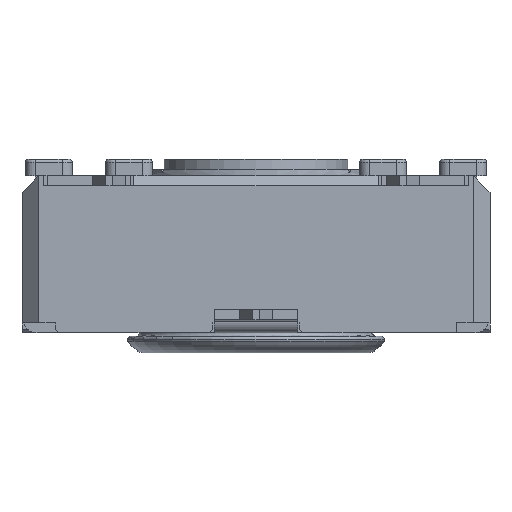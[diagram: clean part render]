
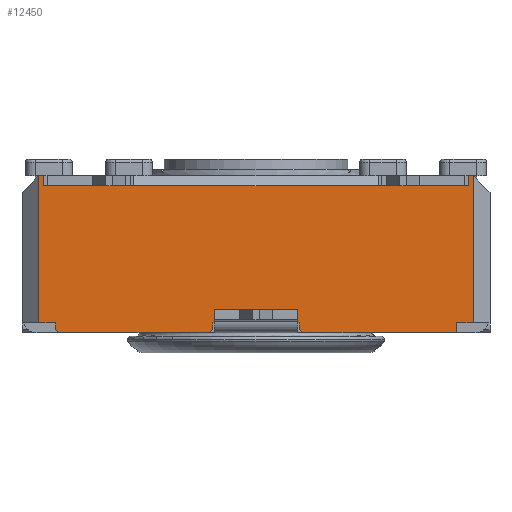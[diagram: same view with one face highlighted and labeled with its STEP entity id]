
A CAD part, front view. The second image highlights one B-rep face of the part: STEP entity #12450.
In plain terms, the highlighted planar face has unit normal (0, -1, 0).
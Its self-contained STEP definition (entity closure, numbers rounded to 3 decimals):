
#191=PLANE('',#13158);
#689=FACE_OUTER_BOUND('',#1353,.T.);
#1353=EDGE_LOOP('',(#8626,#8627,#8628,#8629,#8630,#8631,#8632,#8633,#8634,
#8635,#8636,#8637,#8638,#8639,#8640,#8641,#8642,#8643,#8644,#8645,#8646,
#8647,#8648,#8649,#8650,#8651,#8652));
#2026=LINE('',#17699,#3499);
#2035=LINE('',#17725,#3508);
#2040=LINE('',#17735,#3513);
#2120=LINE('',#17900,#3593);
#2145=LINE('',#17951,#3618);
#2171=LINE('',#18015,#3644);
#2172=LINE('',#18017,#3645);
#2173=LINE('',#18019,#3646);
#2174=LINE('',#18020,#3647);
#2175=LINE('',#18022,#3648);
#2176=LINE('',#18024,#3649);
#2177=LINE('',#18026,#3650);
#2178=LINE('',#18028,#3651);
#2179=LINE('',#18029,#3652);
#2180=LINE('',#18031,#3653);
#2181=LINE('',#18033,#3654);
#2182=LINE('',#18035,#3655);
#2183=LINE('',#18037,#3656);
#2184=LINE('',#18039,#3657);
#2185=LINE('',#18041,#3658);
#2186=LINE('',#18043,#3659);
#2187=LINE('',#18045,#3660);
#2188=LINE('',#18047,#3661);
#2189=LINE('',#18048,#3662);
#2190=LINE('',#18050,#3663);
#2191=LINE('',#18052,#3664);
#2192=LINE('',#18053,#3665);
#3499=VECTOR('',#14196,10.);
#3508=VECTOR('',#14227,10.);
#3513=VECTOR('',#14232,10.);
#3593=VECTOR('',#14340,10.);
#3618=VECTOR('',#14381,10.);
#3644=VECTOR('',#14429,10.);
#3645=VECTOR('',#14430,10.);
#3646=VECTOR('',#14431,10.);
#3647=VECTOR('',#14432,10.);
#3648=VECTOR('',#14433,10.);
#3649=VECTOR('',#14434,10.);
#3650=VECTOR('',#14435,10.);
#3651=VECTOR('',#14436,10.);
#3652=VECTOR('',#14437,10.);
#3653=VECTOR('',#14438,10.);
#3654=VECTOR('',#14439,10.);
#3655=VECTOR('',#14440,10.);
#3656=VECTOR('',#14441,10.);
#3657=VECTOR('',#14442,10.);
#3658=VECTOR('',#14443,10.);
#3659=VECTOR('',#14444,10.);
#3660=VECTOR('',#14445,10.);
#3661=VECTOR('',#14446,10.);
#3662=VECTOR('',#14447,10.);
#3663=VECTOR('',#14448,10.);
#3664=VECTOR('',#14449,10.);
#3665=VECTOR('',#14450,10.);
#5279=VERTEX_POINT('',#17679);
#5286=VERTEX_POINT('',#17698);
#5292=VERTEX_POINT('',#17724);
#5296=VERTEX_POINT('',#17732);
#5297=VERTEX_POINT('',#17734);
#5350=VERTEX_POINT('',#17848);
#5368=VERTEX_POINT('',#17899);
#5385=VERTEX_POINT('',#17948);
#5386=VERTEX_POINT('',#17950);
#5413=VERTEX_POINT('',#18014);
#5414=VERTEX_POINT('',#18016);
#5415=VERTEX_POINT('',#18018);
#5416=VERTEX_POINT('',#18021);
#5417=VERTEX_POINT('',#18023);
#5418=VERTEX_POINT('',#18025);
#5419=VERTEX_POINT('',#18027);
#5420=VERTEX_POINT('',#18030);
#5421=VERTEX_POINT('',#18032);
#5422=VERTEX_POINT('',#18034);
#5423=VERTEX_POINT('',#18036);
#5424=VERTEX_POINT('',#18038);
#5425=VERTEX_POINT('',#18040);
#5426=VERTEX_POINT('',#18042);
#5427=VERTEX_POINT('',#18044);
#5428=VERTEX_POINT('',#18046);
#5429=VERTEX_POINT('',#18049);
#5430=VERTEX_POINT('',#18051);
#6504=EDGE_CURVE('',#5279,#5286,#2026,.T.);
#6517=EDGE_CURVE('',#5292,#5279,#2035,.T.);
#6522=EDGE_CURVE('',#5297,#5296,#2040,.T.);
#6604=EDGE_CURVE('',#5368,#5350,#2120,.T.);
#6629=EDGE_CURVE('',#5386,#5385,#2145,.T.);
#6661=EDGE_CURVE('',#5350,#5413,#2171,.T.);
#6662=EDGE_CURVE('',#5413,#5414,#2172,.T.);
#6663=EDGE_CURVE('',#5414,#5415,#2173,.T.);
#6664=EDGE_CURVE('',#5297,#5415,#2174,.T.);
#6665=EDGE_CURVE('',#5296,#5416,#2175,.T.);
#6666=EDGE_CURVE('',#5417,#5416,#2176,.T.);
#6667=EDGE_CURVE('',#5417,#5418,#2177,.T.);
#6668=EDGE_CURVE('',#5419,#5418,#2178,.T.);
#6669=EDGE_CURVE('',#5292,#5419,#2179,.T.);
#6670=EDGE_CURVE('',#5286,#5420,#2180,.T.);
#6671=EDGE_CURVE('',#5420,#5421,#2181,.T.);
#6672=EDGE_CURVE('',#5422,#5421,#2182,.T.);
#6673=EDGE_CURVE('',#5422,#5423,#2183,.T.);
#6674=EDGE_CURVE('',#5423,#5424,#2184,.T.);
#6675=EDGE_CURVE('',#5424,#5425,#2185,.T.);
#6676=EDGE_CURVE('',#5426,#5425,#2186,.T.);
#6677=EDGE_CURVE('',#5426,#5427,#2187,.T.);
#6678=EDGE_CURVE('',#5427,#5428,#2188,.T.);
#6679=EDGE_CURVE('',#5428,#5386,#2189,.T.);
#6680=EDGE_CURVE('',#5385,#5429,#2190,.T.);
#6681=EDGE_CURVE('',#5430,#5429,#2191,.T.);
#6682=EDGE_CURVE('',#5430,#5368,#2192,.T.);
#8626=ORIENTED_EDGE('',*,*,#6604,.T.);
#8627=ORIENTED_EDGE('',*,*,#6661,.T.);
#8628=ORIENTED_EDGE('',*,*,#6662,.T.);
#8629=ORIENTED_EDGE('',*,*,#6663,.T.);
#8630=ORIENTED_EDGE('',*,*,#6664,.F.);
#8631=ORIENTED_EDGE('',*,*,#6522,.T.);
#8632=ORIENTED_EDGE('',*,*,#6665,.T.);
#8633=ORIENTED_EDGE('',*,*,#6666,.F.);
#8634=ORIENTED_EDGE('',*,*,#6667,.T.);
#8635=ORIENTED_EDGE('',*,*,#6668,.F.);
#8636=ORIENTED_EDGE('',*,*,#6669,.F.);
#8637=ORIENTED_EDGE('',*,*,#6517,.T.);
#8638=ORIENTED_EDGE('',*,*,#6504,.T.);
#8639=ORIENTED_EDGE('',*,*,#6670,.T.);
#8640=ORIENTED_EDGE('',*,*,#6671,.T.);
#8641=ORIENTED_EDGE('',*,*,#6672,.F.);
#8642=ORIENTED_EDGE('',*,*,#6673,.T.);
#8643=ORIENTED_EDGE('',*,*,#6674,.T.);
#8644=ORIENTED_EDGE('',*,*,#6675,.T.);
#8645=ORIENTED_EDGE('',*,*,#6676,.F.);
#8646=ORIENTED_EDGE('',*,*,#6677,.T.);
#8647=ORIENTED_EDGE('',*,*,#6678,.T.);
#8648=ORIENTED_EDGE('',*,*,#6679,.T.);
#8649=ORIENTED_EDGE('',*,*,#6629,.T.);
#8650=ORIENTED_EDGE('',*,*,#6680,.T.);
#8651=ORIENTED_EDGE('',*,*,#6681,.F.);
#8652=ORIENTED_EDGE('',*,*,#6682,.T.);
#12450=ADVANCED_FACE('',(#689),#191,.T.);
#13158=AXIS2_PLACEMENT_3D('',#18013,#14427,#14428);
#14196=DIRECTION('',(1.,0.,0.));
#14227=DIRECTION('',(1.,0.,0.));
#14232=DIRECTION('',(1.,0.,0.));
#14340=DIRECTION('',(-1.,0.,0.));
#14381=DIRECTION('',(-1.,0.,0.));
#14427=DIRECTION('center_axis',(0.,-1.,0.));
#14428=DIRECTION('ref_axis',(0.,0.,-1.));
#14429=DIRECTION('',(-1.,0.,0.));
#14430=DIRECTION('',(0.,0.,1.));
#14431=DIRECTION('',(-1.,0.,0.));
#14432=DIRECTION('',(0.,0.,1.));
#14433=DIRECTION('',(0.,0.,-1.));
#14434=DIRECTION('',(-0.707,0.,0.707));
#14435=DIRECTION('',(1.,0.,0.));
#14436=DIRECTION('',(-0.707,0.,-0.707));
#14437=DIRECTION('',(0.,0.,-1.));
#14438=DIRECTION('',(1.,0.,0.));
#14439=DIRECTION('',(0.,0.,-1.));
#14440=DIRECTION('',(-0.707,0.,0.707));
#14441=DIRECTION('',(1.,0.,0.));
#14442=DIRECTION('',(0.,0.,1.));
#14443=DIRECTION('',(1.,0.,0.));
#14444=DIRECTION('',(0.,0.,-1.));
#14445=DIRECTION('',(-1.,0.,0.));
#14446=DIRECTION('',(0.,0.,-1.));
#14447=DIRECTION('',(-1.,0.,0.));
#14448=DIRECTION('',(-1.,0.,0.));
#14449=DIRECTION('',(1.,0.,0.));
#14450=DIRECTION('',(-1.,0.,0.));
#17679=CARTESIAN_POINT('',(-8.717,-9.898,0.));
#17698=CARTESIAN_POINT('',(-6.217,-9.898,0.));
#17699=CARTESIAN_POINT('',(-14.467,-9.898,0.));
#17724=CARTESIAN_POINT('',(-8.767,-9.898,0.));
#17725=CARTESIAN_POINT('',(-14.467,-9.898,0.));
#17732=CARTESIAN_POINT('',(-13.467,-9.898,0.));
#17734=CARTESIAN_POINT('',(-13.967,-9.898,0.));
#17735=CARTESIAN_POINT('',(-7.245,-9.898,0.));
#17848=CARTESIAN_POINT('',(-13.717,-9.898,4.1));
#17899=CARTESIAN_POINT('',(-11.217,-9.898,4.1));
#17900=CARTESIAN_POINT('',(-6.341,-9.898,4.1));
#17948=CARTESIAN_POINT('',(-3.717,-9.898,4.1));
#17950=CARTESIAN_POINT('',(-1.217,-9.898,4.1));
#17951=CARTESIAN_POINT('',(-1.593,-9.898,4.1));
#18013=CARTESIAN_POINT('Origin',(-0.467,-9.898,0.));
#18014=CARTESIAN_POINT('',(-13.817,-9.898,4.1));
#18015=CARTESIAN_POINT('',(-3.944,-9.898,4.1));
#18016=CARTESIAN_POINT('',(-13.817,-9.898,4.4));
#18017=CARTESIAN_POINT('',(-13.817,-9.898,2.2));
#18018=CARTESIAN_POINT('',(-13.967,-9.898,4.4));
#18019=CARTESIAN_POINT('',(-14.467,-9.898,4.4));
#18020=CARTESIAN_POINT('',(-13.967,-9.898,0.));
#18021=CARTESIAN_POINT('',(-13.467,-9.898,-0.2));
#18022=CARTESIAN_POINT('',(-13.467,-9.898,-0.15));
#18023=CARTESIAN_POINT('',(-13.367,-9.898,-0.3));
#18024=CARTESIAN_POINT('',(-10.242,-9.898,-3.425));
#18025=CARTESIAN_POINT('',(-8.867,-9.898,-0.3));
#18026=CARTESIAN_POINT('',(-0.467,-9.898,-0.3));
#18027=CARTESIAN_POINT('',(-8.767,-9.898,-0.2));
#18028=CARTESIAN_POINT('',(-6.667,-9.898,1.9));
#18029=CARTESIAN_POINT('',(-8.767,-9.898,0.));
#18030=CARTESIAN_POINT('',(-6.167,-9.898,0.));
#18031=CARTESIAN_POINT('',(-14.467,-9.898,0.));
#18032=CARTESIAN_POINT('',(-6.167,-9.898,-0.2));
#18033=CARTESIAN_POINT('',(-6.167,-9.898,0.));
#18034=CARTESIAN_POINT('',(-6.067,-9.898,-0.3));
#18035=CARTESIAN_POINT('',(-4.767,-9.898,-1.6));
#18036=CARTESIAN_POINT('',(-1.467,-9.898,-0.3));
#18037=CARTESIAN_POINT('',(-0.467,-9.898,-0.3));
#18038=CARTESIAN_POINT('',(-1.467,-9.898,0.));
#18039=CARTESIAN_POINT('',(-1.467,-9.898,-0.15));
#18040=CARTESIAN_POINT('',(-0.967,-9.898,0.));
#18041=CARTESIAN_POINT('',(-0.646,-9.898,0.));
#18042=CARTESIAN_POINT('',(-0.967,-9.898,4.4));
#18043=CARTESIAN_POINT('',(-0.967,-9.898,0.));
#18044=CARTESIAN_POINT('',(-1.117,-9.898,4.4));
#18045=CARTESIAN_POINT('',(-14.467,-9.898,4.4));
#18046=CARTESIAN_POINT('',(-1.117,-9.898,4.1));
#18047=CARTESIAN_POINT('',(-1.117,-9.898,2.2));
#18048=CARTESIAN_POINT('',(-1.862,-9.898,4.1));
#18049=CARTESIAN_POINT('',(-3.817,-9.898,4.1));
#18050=CARTESIAN_POINT('',(-1.862,-9.898,4.1));
#18051=CARTESIAN_POINT('',(-11.117,-9.898,4.1));
#18052=CARTESIAN_POINT('',(-3.967,-9.898,4.1));
#18053=CARTESIAN_POINT('',(-3.944,-9.898,4.1));
